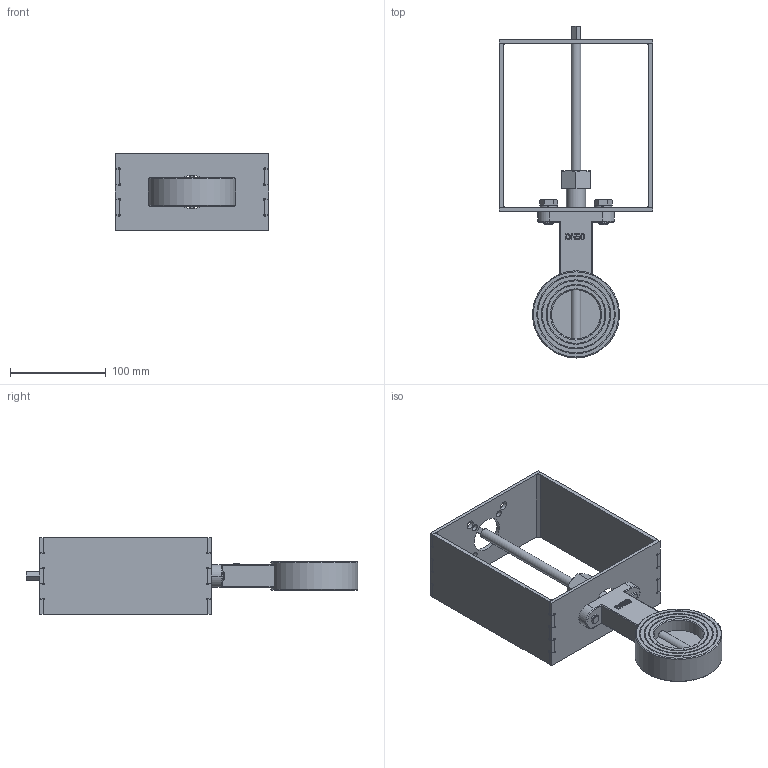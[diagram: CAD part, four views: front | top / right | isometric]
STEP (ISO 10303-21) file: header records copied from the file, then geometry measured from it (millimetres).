
FILE_DESCRIPTION(/* description */ (''),/* implementation_level */ '2;1');
FILE_NAME(/* name */ 'C:\Users\miv\Desktop\Typ 5k DN50\Typ 5k DN50.stp',/* time_stamp */ '2015-03-24T09:59:29+01:00',/* author */ ('Technik-3D'),/* organization */ (''),/* preprocessor_version */ 'ST-DEVELOPER v15.6',/* originating_system */ 'Autodesk Inventor 2015',/* authorisation */ '');
FILE_SCHEMA (('AUTOMOTIVE_DESIGN { 1 0 10303 214 3 1 1 }'));
Length unit declared in the file: millimetre
Products named in the file (14): Gussring DN50; Graphitbuchse d=10; Stopfbuchse d=10 MS; ISO 49 Kappe T1 1_2; Konsole F05,07 ab DN200_Schweißnähte; Unterteil Konsole F05, F07, ST; Seitenteil F05, F07, ST; Oberteil Konsole F05, F07, ST; Konsole F05,07 ab DN200; DIN 127 - A 10; ISO 4017 - M10 x 20DIN EN; Welle; Ronde d=51; Typ 5k DN50
Bounding box: 160 x 347 x 80 mm (x, y, z)
Volume: 440034.9 mm3; surface area: 181388.4 mm2
Topology: 18 solids, 18 shells, 372 faces, 906 edges, 597 vertices
Faces by surface type: plane 214, cylinder 92, bspline 33, cone 29, torus 4
Full cylindrical faces by diameter (mm): 7 x4, 8.376 x2, 9 x4, 10 x4, 10.3 x1, 10.5 x2, 11 x3, 12.7 x1, 13 x2, 14.63 x2, 16 x1, 20 x1, 35 x1, 37 x1, 51 x1, 51.5 x1, 60.375 x2, 62.375 x2, 70.25 x2, 72.25 x2, 80.125 x2, 82.125 x2, 91 x1
Entity records: 9555 total; most frequent: CARTESIAN_POINT 2120, DIRECTION 1414, ORIENTED_EDGE 1388, EDGE_CURVE 694, AXIS2_PLACEMENT_3D 498, VERTEX_POINT 490, EDGE_LOOP 438, LINE 418
